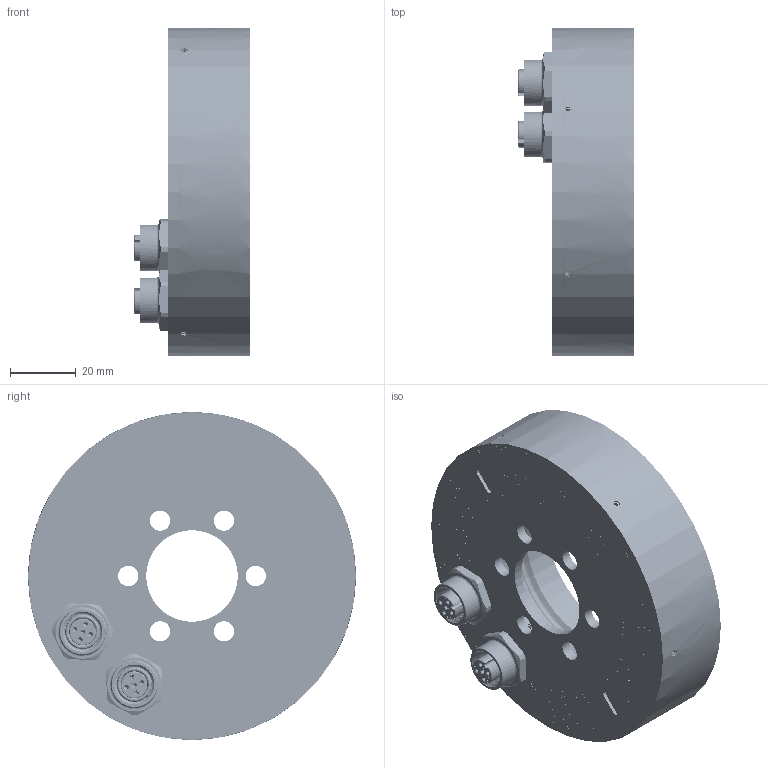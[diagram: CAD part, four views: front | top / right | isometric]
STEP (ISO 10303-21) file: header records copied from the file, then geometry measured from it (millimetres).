
FILE_DESCRIPTION (( 'STEP AP203' ), '1' );
FILE_NAME ('K0E012335_IC-REMOTE F100_50_zum_Versenden.STEP', '2023-12-22T08:20:47', ( '' ), ( '' ), 'SwSTEP 2.0', 'SolidWorks 2023', '' );
FILE_SCHEMA (( 'CONFIG_CONTROL_DESIGN' ));
Length unit declared in the file: millimetre
Products named in the file (1): K0E012335_IC-REMOTE F100_50_zum_Versenden
Bounding box: 35.34 x 100 x 100 mm (x, y, z)
Surface area: 66003.5 mm2 (no closed solid volume)
Topology: 0 solids, 57 shells, 5979 faces, 17315 edges, 11938 vertices
Faces by surface type: plane 3286, bspline 2007, cylinder 498, cone 172, torus 16
Entity records: 310230 total; most frequent: CARTESIAN_POINT 166637, ORIENTED_EDGE 33570, DIRECTION 21727, EDGE_CURVE 17299, VERTEX_POINT 11938, VECTOR 11051, LINE 11051, EDGE_LOOP 6717
